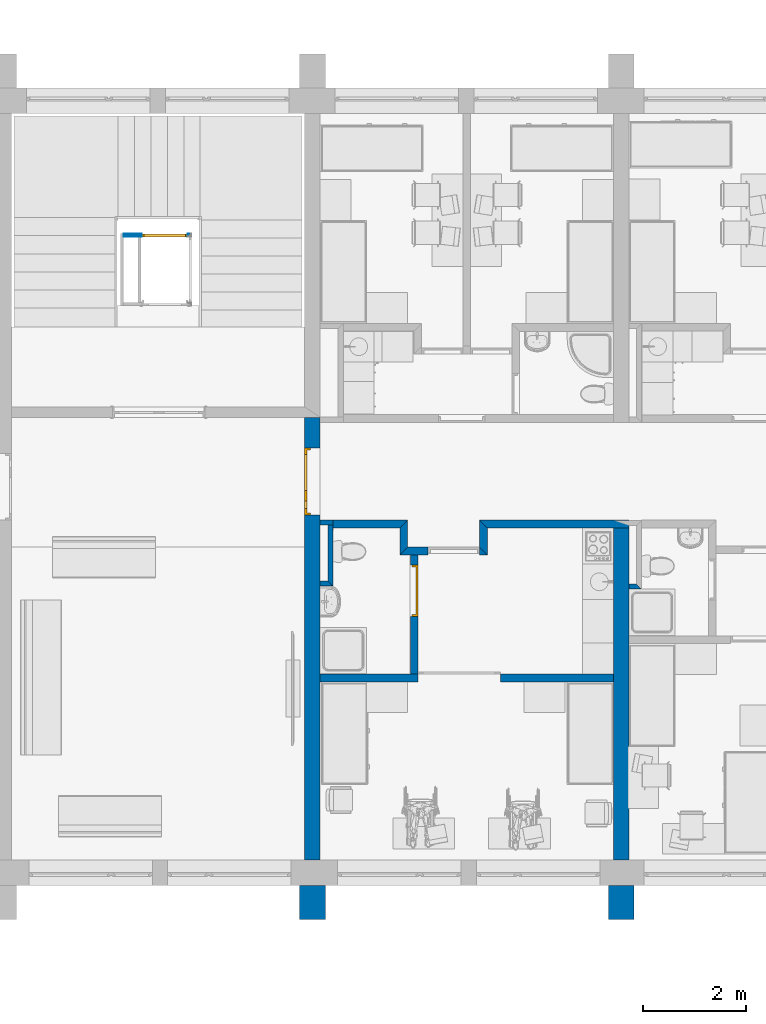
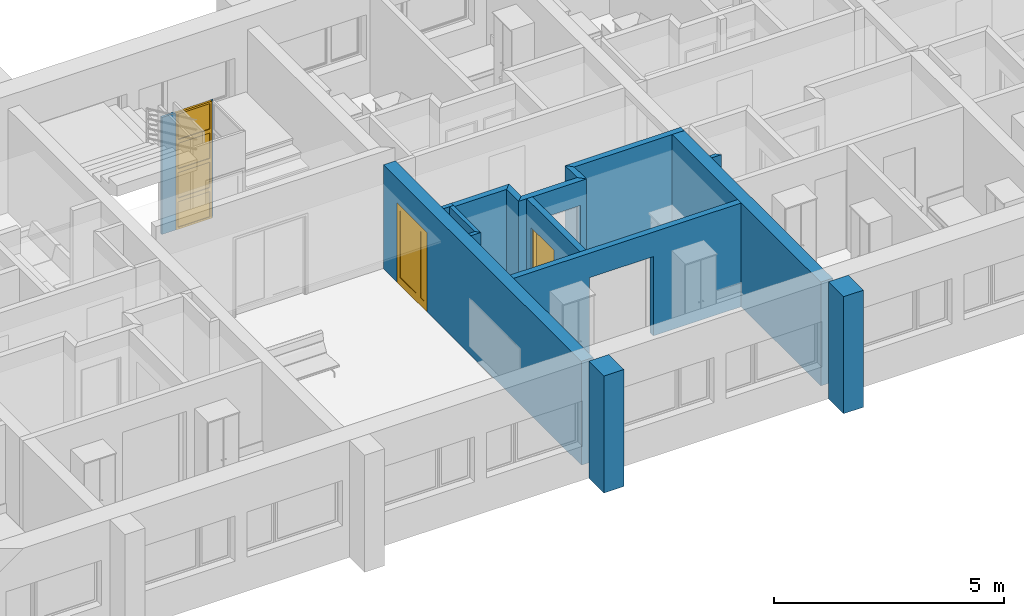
# One storey, part 14 of 172: 16 walls, 2 doors, 1 window, 5 openings.
"""IFC2X3 building model written with IfcOpenShell, lengths in millimetres."""

from ifc_helpers import new_model, entity, si_unit, converted_unit, money_unit, direction, frame, origin_with_axes, place, context, subcontext, project, spatial, polyline, outline, extrude, open_shell, faceted_brep, surface_model, source, transform, mapped, material, material_list, layer, layer_set, layer_usage, type_object, element, fill, save


model = new_model("IFC2X3")

# Units and contexts
model_context = context("Model", 3, precision=1e-05, world=origin_with_axes(), true_north=direction((0.0, 1.0)))
body_context = subcontext(model_context, "Body", "Model", "MODEL_VIEW")
ifc_project = project(units=[si_unit("LENGTHUNIT", "METRE", prefix="MILLI"), si_unit("AREAUNIT", "SQUARE_METRE"), si_unit("VOLUMEUNIT", "CUBIC_METRE"), converted_unit("PLANEANGLEUNIT", "DEGREE", entity("IfcPlaneAngleMeasure", 0.0174532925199), si_unit("PLANEANGLEUNIT", "RADIAN"), dimensions=[0, 0, 0, 0, 0, 0, 0]), si_unit("SOLIDANGLEUNIT", "STERADIAN"), money_unit("USD"), converted_unit("TIMEUNIT", "Year", entity("IfcTimeMeasure", 31556926.0), si_unit("TIMEUNIT", "SECOND"), dimensions=[0, 0, 0, 0, 0, 0, 0]), si_unit("MASSUNIT", "GRAM"), si_unit("THERMODYNAMICTEMPERATUREUNIT", "DEGREE_CELSIUS"), si_unit("LUMINOUSINTENSITYUNIT", "LUMEN")], contexts=[model_context])

# Site, building, storey
site_placement = place(None, origin_with_axes())
site = spatial("IfcSite", under=ifc_project, at=site_placement, Name="Site", CompositionType="ELEMENT")
building_placement = place(site_placement, origin_with_axes())
building = spatial("IfcBuilding", under=site, at=building_placement, Name="Building", CompositionType="ELEMENT")
storey_placement = place(building_placement, frame((0.0, 0.0, 3200.0), z_axis=(0.0, 0.0, 1.0), x_axis=(1.0, 0.0, 0.0)))
storey = spatial("IfcBuildingStorey", under=building, at=storey_placement, Name="3KORRUS", CompositionType="ELEMENT", Elevation=3200.0)

# Walls
ifc_material_1 = material(Name="Olemasolevad seinad tellis, uus viimistlus")
ifc_layer_1 = layer(ifc_material_1, 500.0, ventilated="UNKNOWN")
ifc_layer_set_1 = layer_set([ifc_layer_1], Name="Olemasolevad seinad tellis, uus viimistlus 500")
ifc_layer_usage_1 = layer_usage(ifc_layer_set_1, "AXIS2", "POSITIVE", -100.0)
wall_type_1 = type_object("IfcWallType", Name="Olemasolevad seinad tellis, uus viimistlus 500", PredefinedType="NOTDEFINED")
wall_1_placement = place(storey_placement, frame((9.70329668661, -20796.6419407, 0.0), z_axis=(0.0, 0.0, 1.0), x_axis=(0.0, 1.0, 0.0)))
element("IfcWallStandardCase", 1, at=wall_1_placement, inside=storey, type_object=wall_type_1, material=ifc_layer_usage_1, Name="VS1", ObjectType="VS1", context=body_context, shape_type="SweptSolid", body=[
    extrude(outline(polyline([(0.0, -100.0), (657.402041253, -100.0), (657.402041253, 400.0), (0.0, 400.0), (0.0, -100.0)])), origin_with_axes(), (0.0, 0.0, 1.0), 3100.0),
])
ifc_layer_usage_2 = layer_usage(ifc_layer_set_1, "AXIS2", "POSITIVE", -100.0)
wall_2_placement = place(storey_placement, frame((-5990.29670331, -20796.6419407, 0.0), z_axis=(0.0, 0.0, 1.0), x_axis=(0.0, 1.0, 0.0)))
element("IfcWallStandardCase", 2, at=wall_2_placement, inside=storey, type_object=wall_type_1, material=ifc_layer_usage_2, Name="VS1", ObjectType="VS1", context=body_context, shape_type="SweptSolid", body=[
    extrude(outline(polyline([(0.0, -100.0), (657.402041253, -100.0), (657.402041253, 400.0), (0.0, 400.0), (0.0, -100.0)])), origin_with_axes(), (0.0, 0.0, 1.0), 3100.0),
])

# Wall, opening
ifc_material_2 = material(Name="UmbKipsplaat")
ifc_layer_2 = layer(ifc_material_2, 13.0, ventilated="UNKNOWN")
ifc_layer_3 = layer(ifc_material_2, 13.0, ventilated="UNKNOWN")
ifc_material_3 = material(Name="SOOJUSTUS MINERAALVILL")
ifc_layer_4 = layer(ifc_material_3, 98.0, ventilated="UNKNOWN")
ifc_layer_5 = layer(ifc_material_2, 13.0, ventilated="UNKNOWN")
ifc_layer_6 = layer(ifc_material_2, 13.0, ventilated="UNKNOWN")
ifc_layer_set_2 = layer_set([ifc_layer_2, ifc_layer_3, ifc_layer_4, ifc_layer_5, ifc_layer_6], Name="kipssein150")
ifc_layer_usage_3 = layer_usage(ifc_layer_set_2, "AXIS2", "POSITIVE", 0.0)
wall_type_2 = type_object("IfcWallType", Name="kipssein150 150", PredefinedType="NOTDEFINED")
wall_3_placement = place(storey_placement, frame((9.70329668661, -16029.7357921, 0.0), z_axis=(0.0, 0.0, 1.0), x_axis=(-1.0, 0.0, 0.0)))
wall_3 = element("IfcWallStandardCase", 3, at=wall_3_placement, inside=storey, type_object=wall_type_2, material=ifc_layer_usage_3, Name="SS1", ObjectType="SS1", context=body_context, shape_type="SweptSolid", body=[
    extrude(outline(polyline([(300.0, 0.0), (6000.0, 0.0), (6000.0, 150.0), (300.0, 150.0), (300.0, 0.0)])), origin_with_axes(), (0.0, 0.0, 1.0), 2750.0),
])
opening_1_placement = place(wall_3_placement, frame((3298.49879352, 0.0, 0.0), z_axis=(0.0, 0.0, 1.0), x_axis=(1.0, 0.0, 0.0)))
element("IfcOpeningElement", 4, at=opening_1_placement, cuts=wall_3, Name="SU6-1", context=body_context, shape_type="SweptSolid", body=[
    extrude(outline(polyline([(-800.0, 0.0), (800.0, 0.0), (800.0, 2100.0), (-800.0, 2100.0), (-800.0, 0.0)])), frame((0.0, -150.0, 0.0), z_axis=(0.0, 1.0, 0.0), x_axis=(-1.0, 0.0, 0.0)), (0.0, 0.0, 1.0), 450.0),
])

ifc_layer_usage_4 = layer_usage(ifc_layer_set_2, "AXIS2", "POSITIVE", -150.0)
wall_4_placement = place(storey_placement, frame((-4290.10332226, -13563.4524083, 0.0), z_axis=(0.0, 0.0, 1.0), x_axis=(1.0, 0.0, 0.0)))
wall_4 = element("IfcWallStandardCase", 5, at=wall_4_placement, inside=storey, type_object=wall_type_2, material=ifc_layer_usage_4, Name="SS1", ObjectType="SS1", context=body_context, shape_type="SweptSolid", body=[
    extrude(outline(polyline([(-150.0, -150.0), (1549.66067938, -150.0), (1399.66067938, 0.0), (0.0, 0.0), (-150.0, -150.0)])), origin_with_axes(), (0.0, 0.0, 1.0), 2750.0),
])
opening_2_placement = place(wall_4_placement, frame((899.660679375, 0.0, 0.0), z_axis=(0.0, 0.0, 1.0), x_axis=(1.0, 0.0, 0.0)))
element("IfcOpeningElement", 6, at=opening_2_placement, cuts=wall_4, Name="SU1-1", context=body_context, shape_type="SweptSolid", body=[
    extrude(outline(polyline([(-500.0, -2100.0), (500.0, -2100.0), (500.0, 0.0), (-500.0, 0.0), (-500.0, -2100.0)])), frame((0.0, -150.0, 0.0), z_axis=(0.0, 1.0, 0.0), x_axis=(1.0, 0.0, 0.0)), (0.0, 0.0, 1.0), 450.0),
])

# Walls
ifc_layer_usage_5 = layer_usage(ifc_layer_set_2, "AXIS2", "POSITIVE", -150.0)
wall_5_placement = place(storey_placement, frame((-5740.29670331, -13036.631919, 0.0), z_axis=(0.0, 0.0, 1.0), x_axis=(1.0, 0.0, 0.0)))
element("IfcWallStandardCase", 7, at=wall_5_placement, inside=storey, type_object=wall_type_2, material=ifc_layer_usage_5, Name="SS1", ObjectType="SS1", context=body_context, shape_type="SweptSolid", body=[
    extrude(outline(polyline([(0.444701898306, -150.0), (1300.19338105, -150.0), (1450.19338105, 0.0), (0.000773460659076, 0.0), (0.444701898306, -150.0)])), origin_with_axes(), (0.0, 0.0, 1.0), 2750.0),
])
ifc_layer_usage_6 = layer_usage(ifc_layer_set_2, "AXIS2", "POSITIVE", -150.0)
wall_6_placement = place(storey_placement, frame((-2740.44264288, -13039.5012458, 0.0), z_axis=(0.0, 0.0, 1.0), x_axis=(0.0, -1.0, 0.0)))
element("IfcWallStandardCase", 8, at=wall_6_placement, inside=storey, type_object=wall_type_2, material=ifc_layer_usage_6, Name="SS1", ObjectType="SS1", context=body_context, shape_type="SweptSolid", body=[
    extrude(outline(polyline([(0.0, -150.0), (523.9511625, -150.0), (673.9511625, 0.0), (150.0, 0.0), (0.0, -150.0)])), origin_with_axes(), (0.0, 0.0, 1.0), 2750.0),
])

# Wall, opening, door
ifc_layer_usage_7 = layer_usage(ifc_layer_set_2, "AXIS2", "POSITIVE", 0.0)
wall_7_placement = place(storey_placement, frame((-4088.79549683, -16029.7357921, 0.0), z_axis=(0.0, 0.0, 1.0), x_axis=(0.0, 1.0, 0.0)))
wall_7 = element("IfcWallStandardCase", 9, at=wall_7_placement, inside=storey, type_object=wall_type_2, material=ifc_layer_usage_7, Name="SS1", ObjectType="SS1", context=body_context, shape_type="SweptSolid", body=[
    extrude(outline(polyline([(0.0, 0.0), (2316.2833838, 0.0), (2316.2833838, 150.0), (0.0, 150.0), (0.0, 0.0)])), origin_with_axes(), (0.0, 0.0, 1.0), 2750.0),
])
opening_3_placement = place(wall_7_placement, frame((1622.03161053, 0.0, 0.0), z_axis=(0.0, 0.0, 1.0), x_axis=(1.0, 0.0, 0.0)))
opening_3 = element("IfcOpeningElement", 10, at=opening_3_placement, cuts=wall_7, Name="SU1-4", context=body_context, shape_type="SweptSolid", body=[
    extrude(outline(polyline([(-500.0, -2100.0), (500.0, -2100.0), (500.0, 0.0), (-500.0, 0.0), (-500.0, -2100.0)])), frame((0.0, 150.0, 0.0), z_axis=(0.0, 1.0, 0.0), x_axis=(1.0, 0.0, 0.0)), (0.0, 0.0, -1.0), 450.0),
])
ifc_material_4 = material(Name="Background")
ifc_material_list = material_list([ifc_material_4])
door_style_1 = type_object("IfcDoorStyle", Name="Door 19", ConstructionType="NOTDEFINED", OperationType="SINGLE_SWING_LEFT", ParameterTakesPrecedence=False, Sizeable=False)
shared_shape_1 = source(origin_with_axes(), body_context, "Body", "Brep", [
    faceted_brep([(460.0, -40.0, 0.0), (460.0, -115.0, 0.0), (460.0, -115.0, 2060.0), (460.0, -40.0, 2060.0), (472.0, -40.0, 0.0), (472.0, 0.0, 0.0), (500.0, 0.0, 0.0), (500.0, -115.0, 0.0), (500.0, -115.0, 2060.0), (472.0, -40.0, 2060.0), (500.0, 0.0, 2060.0), (472.0, 0.0, 2060.0)], [[[0, 1, 2, 3]], [[4, 5, 6, 7, 1, 0]], [[2, 1, 7, 8]], [[9, 3, 2, 8, 10, 11]], [[9, 4, 0, 3]], [[11, 5, 4, 9]], [[11, 10, 6, 5]], [[7, 6, 10, 8]]]),
    faceted_brep([(-472.0, -40.0, 2060.0), (-472.0, 0.0, 2060.0), (-500.0, 0.0, 2060.0), (-500.0, -115.0, 2060.0), (-460.0, -115.0, 2060.0), (-460.0, -40.0, 2060.0), (-472.0, -40.0, 0.0), (-472.0, 0.0, 0.0), (-500.0, 0.0, 0.0), (-500.0, -115.0, 0.0), (-460.0, -115.0, 0.0), (-460.0, -40.0, 0.0)], [[[0, 1, 2, 3, 4, 5]], [[0, 6, 7, 1]], [[7, 8, 2, 1]], [[3, 2, 8, 9]], [[4, 3, 9, 10]], [[5, 4, 10, 11]], [[5, 11, 6, 0]], [[6, 11, 10, 9, 8, 7]]]),
    faceted_brep([(472.0, 0.0, 2072.0), (-472.0, 0.0, 2072.0), (-472.0, 0.0, 2060.0), (-500.0, 0.0, 2060.0), (-500.0, 0.0, 2100.0), (500.0, 0.0, 2100.0), (500.0, 0.0, 2060.0), (472.0, 0.0, 2060.0), (472.0, -40.0, 2072.0), (-472.0, -40.0, 2072.0), (-472.0, -40.0, 2060.0), (-460.0, -40.0, 2060.0), (-460.0, -115.0, 2060.0), (-500.0, -115.0, 2060.0), (-500.0, -115.0, 2100.0), (500.0, -115.0, 2100.0), (500.0, -115.0, 2060.0), (472.0, -40.0, 2060.0), (460.0, -115.0, 2060.0), (460.0, -40.0, 2060.0)], [[[0, 1, 2, 3, 4, 5, 6, 7]], [[0, 8, 9, 1]], [[1, 9, 10, 2]], [[10, 11, 12, 13, 3, 2]], [[14, 4, 3, 13]], [[15, 5, 4, 14]], [[16, 6, 5, 15]], [[17, 7, 6, 16, 18, 19]], [[7, 17, 8, 0]], [[10, 9, 8, 17, 19, 11]], [[19, 18, 12, 11]], [[13, 12, 18, 16, 15, 14]]]),
    faceted_brep([(-472.0, 0.0, 0.0), (472.0, 0.0, 0.0), (472.0, -40.0, 0.0), (-472.0, -40.0, 0.0), (-472.0, 0.0, 2072.0), (472.0, 0.0, 2072.0), (472.0, -40.0, 2072.0), (-472.0, -40.0, 2072.0)], [[[0, 1, 2, 3]], [[0, 4, 5, 1]], [[1, 5, 6, 2]], [[3, 2, 6, 7]], [[4, 0, 3, 7]], [[5, 4, 7, 6]]]),
])
door_1_placement = place(opening_3_placement, frame((500.0, 0.0, 0.0), z_axis=(0.0, 0.0, 1.0), x_axis=(-1.0, 0.0, 0.0)))
door_1 = element("IfcDoor", 11, at=door_1_placement, inside=storey, type_object=door_style_1, material=ifc_material_list, Name="SU1-4", ObjectType="WC-uks", OverallHeight=2100.0, OverallWidth=1000.0, context=body_context, shape_type="MappedRepresentation", body=[
    mapped(shared_shape_1, transform((500.0, 0.0, 0.0))),
])
fill(opening_3, door_1)

# Walls
ifc_layer_usage_8 = layer_usage(ifc_layer_set_2, "AXIS2", "POSITIVE", -150.0)
wall_8_placement = place(storey_placement, frame((-2740.44264288, -13039.5012458, 0.0), z_axis=(0.0, 0.0, 1.0), x_axis=(1.0, 0.0, 0.0)))
element("IfcWallStandardCase", 12, at=wall_8_placement, inside=storey, type_object=wall_type_2, material=ifc_layer_usage_8, Name="SS1", ObjectType="SS1", context=body_context, shape_type="SweptSolid", body=[
    extrude(outline(polyline([(0.0, -150.0), (2750.14593957, -150.0), (2750.14593957, 0.0), (-150.0, 0.0), (0.0, -150.0)])), origin_with_axes(), (0.0, 0.0, 1.0), 2750.0),
])
ifc_layer_usage_9 = layer_usage(ifc_layer_set_2, "AXIS2", "POSITIVE", -150.0)
wall_9_placement = place(storey_placement, frame((-4290.10332226, -13036.631919, 0.0), z_axis=(0.0, 0.0, 1.0), x_axis=(0.0, -1.0, 0.0)))
element("IfcWallStandardCase", 13, at=wall_9_placement, inside=storey, type_object=wall_type_2, material=ifc_layer_usage_9, Name="SS1", ObjectType="SS1", context=body_context, shape_type="SweptSolid", body=[
    extrude(outline(polyline([(150.0, -150.0), (676.8204893, -150.0), (526.8204893, 0.0), (0.0, 0.0), (150.0, -150.0)])), origin_with_axes(), (0.0, 0.0, 1.0), 2750.0),
])
ifc_material_5 = material(Name="Olemasolevad seinad tellis, uus viimistlus")
ifc_layer_7 = layer(ifc_material_5, 300.0, ventilated="UNKNOWN")
ifc_layer_set_3 = layer_set([ifc_layer_7], Name="Olemasolevad seinad tellis, uus viimistlus  300")
ifc_layer_usage_10 = layer_usage(ifc_layer_set_3, "AXIS2", "POSITIVE", 0.0)
wall_type_3 = type_object("IfcWallType", Name="Olemasolevad seinad tellis, uus viimistlus  300", PredefinedType="NOTDEFINED")
wall_10_placement = place(storey_placement, frame((9.70329668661, -19639.2398994, 0.0), z_axis=(0.0, 0.0, 1.0), x_axis=(0.0, 1.0, 0.0)))
element("IfcWallStandardCase", 14, at=wall_10_placement, inside=storey, type_object=wall_type_3, material=ifc_layer_usage_10, Name="KS1", ObjectType="KS1", context=body_context, shape_type="SweptSolid", body=[
    extrude(outline(polyline([(0.0, 0.0), (6497.7869877, 0.0), (6597.7869877, 300.0), (0.0, 300.0), (0.0, 0.0)])), origin_with_axes(), (0.0, 0.0, 1.0), 2750.0),
])

# Wall, opening, door
ifc_layer_usage_11 = layer_usage(ifc_layer_set_3, "AXIS2", "POSITIVE", 0.0)
wall_11_placement = place(storey_placement, frame((-5990.29670331, -19639.2398994, 0.0), z_axis=(0.0, 0.0, 1.0), x_axis=(0.0, 1.0, 0.0)))
wall_11 = element("IfcWallStandardCase", 15, at=wall_11_placement, inside=storey, type_object=wall_type_3, material=ifc_layer_usage_11, Name="KS1", ObjectType="KS1", context=body_context, shape_type="SweptSolid", body=[
    extrude(outline(polyline([(0.0, 0.0), (8595.09891722, 0.0), (8595.09891722, 300.0), (0.0, 300.0), (0.0, 0.0)])), origin_with_axes(), (0.0, 0.0, 1.0), 2750.0),
])
opening_4_placement = place(wall_11_placement, frame((7352.86932682, 0.0, 0.0), z_axis=(0.0, 0.0, 1.0), x_axis=(1.0, 0.0, 0.0)))
opening_4 = element("IfcOpeningElement", 16, at=opening_4_placement, cuts=wall_11, Name="SU4-22", context=body_context, shape_type="SweptSolid", body=[
    extrude(outline(polyline([(-650.0, -2100.0), (650.0, -2100.0), (650.0, 0.0), (-650.0, 0.0), (-650.0, -2100.0)])), frame((0.0, -300.0, 0.0), z_axis=(0.0, 1.0, 0.0), x_axis=(1.0, 0.0, 0.0)), (0.0, 0.0, 1.0), 900.0),
])
door_style_2 = type_object("IfcDoorStyle", Name="Double Door Asymmetric 19", ConstructionType="NOTDEFINED", OperationType="DOUBLE_DOOR_SINGLE_SWING", ParameterTakesPrecedence=False, Sizeable=False)
shared_shape_2 = source(origin_with_axes(), body_context, "Body", "SurfaceModel", [
    faceted_brep([(-610.0, -40.0, 0.0), (-610.0, -40.0, 2060.0), (-610.0, -115.0, 2060.0), (-610.0, -115.0, 0.0), (-622.0, -40.0, 2060.0), (-622.0, -40.0, 0.0), (-622.0, 0.0, 2060.0), (-650.0, 0.0, 2060.0), (-650.0, -115.0, 2060.0), (-650.0, -115.0, 0.0), (-650.0, 0.0, 0.0), (-622.0, 0.0, 0.0)], [[[0, 1, 2, 3]], [[4, 1, 0, 5]], [[4, 6, 7, 8, 2, 1]], [[2, 8, 9, 3]], [[5, 0, 3, 9, 10, 11]], [[6, 4, 5, 11]], [[6, 11, 10, 7]], [[9, 8, 7, 10]]]),
    faceted_brep([(622.0, -40.0, 2060.0), (610.0, -40.0, 2060.0), (610.0, -115.0, 2060.0), (650.0, -115.0, 2060.0), (650.0, 0.0, 2060.0), (622.0, 0.0, 2060.0), (622.0, -40.0, 0.0), (610.0, -40.0, 0.0), (610.0, -115.0, 0.0), (650.0, -115.0, 0.0), (650.0, 0.0, 0.0), (622.0, 0.0, 0.0)], [[[0, 1, 2, 3, 4, 5]], [[1, 0, 6, 7]], [[1, 7, 8, 2]], [[2, 8, 9, 3]], [[3, 9, 10, 4]], [[11, 5, 4, 10]], [[0, 5, 11, 6]], [[6, 11, 10, 9, 8, 7]]]),
    faceted_brep([(-622.0, 0.0, 2072.0), (-622.0, 0.0, 2060.0), (-650.0, 0.0, 2060.0), (-650.0, 0.0, 2100.0), (650.0, 0.0, 2100.0), (650.0, 0.0, 2060.0), (622.0, 0.0, 2060.0), (622.0, 0.0, 2072.0), (-622.0, -40.0, 2072.0), (-622.0, -40.0, 2060.0), (-610.0, -40.0, 2060.0), (-610.0, -115.0, 2060.0), (-650.0, -115.0, 2060.0), (-650.0, -115.0, 2100.0), (650.0, -115.0, 2100.0), (650.0, -115.0, 2060.0), (622.0, -40.0, 2060.0), (610.0, -115.0, 2060.0), (610.0, -40.0, 2060.0), (622.0, -40.0, 2072.0)], [[[0, 1, 2, 3, 4, 5, 6, 7]], [[1, 0, 8, 9]], [[9, 10, 11, 12, 2, 1]], [[12, 13, 3, 2]], [[13, 14, 4, 3]], [[14, 15, 5, 4]], [[16, 6, 5, 15, 17, 18]], [[7, 6, 16, 19]], [[0, 7, 19, 8]], [[16, 18, 10, 9, 8, 19]], [[10, 18, 17, 11]], [[15, 14, 13, 12, 11, 17]]]),
    faceted_brep([(622.0, 0.0, 200.0), (622.0, -40.0, 200.0), (522.0, -40.0, 200.0), (522.0, 0.0, 200.0), (622.0, 0.0, 1972.0), (622.0, -40.0, 1972.0), (522.0, -40.0, 1972.0), (522.0, 0.0, 1972.0)], [[[0, 1, 2, 3]], [[4, 5, 1, 0]], [[1, 5, 6, 2]], [[3, 2, 6, 7]], [[0, 3, 7, 4]], [[7, 6, 5, 4]]]),
    faceted_brep([(-278.0, 0.0, 200.0), (-278.0, -40.0, 200.0), (-278.0, -40.0, 1972.0), (-278.0, 0.0, 1972.0), (-178.0, 0.0, 200.0), (-178.0, -40.0, 200.0), (-178.0, -40.0, 1972.0), (-178.0, 0.0, 1972.0)], [[[0, 1, 2, 3]], [[4, 5, 1, 0]], [[1, 5, 6, 2]], [[3, 2, 6, 7]], [[0, 3, 7, 4]], [[7, 6, 5, 4]]]),
    faceted_brep([(622.0, 0.0, 0.0), (622.0, -40.0, 0.0), (-278.0, -40.0, 0.0), (-278.0, 0.0, 0.0), (622.0, 0.0, 200.0), (622.0, -40.0, 200.0), (522.0, -40.0, 200.0), (-178.0, -40.0, 200.0), (-278.0, -40.0, 200.0), (-278.0, 0.0, 200.0), (-178.0, 0.0, 200.0), (522.0, 0.0, 200.0)], [[[0, 1, 2, 3]], [[4, 5, 1, 0]], [[1, 5, 6, 7, 8, 2]], [[3, 2, 8, 9]], [[0, 3, 9, 10, 11, 4]], [[11, 6, 5, 4]], [[10, 7, 6, 11]], [[9, 8, 7, 10]]]),
    faceted_brep([(622.0, 0.0, 2072.0), (622.0, -40.0, 2072.0), (622.0, -40.0, 1972.0), (622.0, 0.0, 1972.0), (-278.0, 0.0, 2072.0), (-278.0, -40.0, 2072.0), (-278.0, -40.0, 1972.0), (-178.0, -40.0, 1972.0), (522.0, -40.0, 1972.0), (522.0, 0.0, 1972.0), (-178.0, 0.0, 1972.0), (-278.0, 0.0, 1972.0)], [[[0, 1, 2, 3]], [[4, 5, 1, 0]], [[1, 5, 6, 7, 8, 2]], [[3, 2, 8, 9]], [[0, 3, 9, 10, 11, 4]], [[11, 6, 5, 4]], [[10, 7, 6, 11]], [[9, 8, 7, 10]]]),
    surface_model("IfcShellBasedSurfaceModel", [(522.0, -14.0, 200.0), (-178.0, -14.0, 200.0), (-178.0, -14.0, 1972.0), (522.0, -14.0, 1972.0)], [open_shell([[[0, 1, 2, 3]]])]),
    surface_model("IfcShellBasedSurfaceModel", [(522.0, -26.0, 200.0), (522.0, -26.0, 1972.0), (-178.0, -26.0, 1972.0), (-178.0, -26.0, 200.0)], [open_shell([[[0, 1, 2, 3]]])]),
    faceted_brep([(-622.0, 0.0, 200.0), (-522.0, 0.0, 200.0), (-522.0, -40.0, 200.0), (-622.0, -40.0, 200.0), (-622.0, 0.0, 1972.0), (-522.0, 0.0, 1972.0), (-522.0, -40.0, 1972.0), (-622.0, -40.0, 1972.0)], [[[0, 1, 2, 3]], [[0, 4, 5, 1]], [[1, 5, 6, 2]], [[3, 2, 6, 7]], [[4, 0, 3, 7]], [[5, 4, 7, 6]]]),
    faceted_brep([(-278.0, 0.0, 200.0), (-278.0, 0.0, 1972.0), (-278.0, -40.0, 1972.0), (-278.0, -40.0, 200.0), (-378.0, 0.0, 200.0), (-378.0, 0.0, 1972.0), (-378.0, -40.0, 1972.0), (-378.0, -40.0, 200.0)], [[[0, 1, 2, 3]], [[0, 4, 5, 1]], [[1, 5, 6, 2]], [[3, 2, 6, 7]], [[4, 0, 3, 7]], [[5, 4, 7, 6]]]),
    faceted_brep([(-622.0, 0.0, 0.0), (-278.0, 0.0, 0.0), (-278.0, -40.0, 0.0), (-622.0, -40.0, 0.0), (-622.0, 0.0, 200.0), (-522.0, 0.0, 200.0), (-378.0, 0.0, 200.0), (-278.0, 0.0, 200.0), (-278.0, -40.0, 200.0), (-378.0, -40.0, 200.0), (-522.0, -40.0, 200.0), (-622.0, -40.0, 200.0)], [[[0, 1, 2, 3]], [[0, 4, 5, 6, 7, 1]], [[1, 7, 8, 2]], [[3, 2, 8, 9, 10, 11]], [[4, 0, 3, 11]], [[5, 4, 11, 10]], [[6, 5, 10, 9]], [[7, 6, 9, 8]]]),
    faceted_brep([(-622.0, 0.0, 2072.0), (-622.0, 0.0, 1972.0), (-622.0, -40.0, 1972.0), (-622.0, -40.0, 2072.0), (-278.0, 0.0, 2072.0), (-278.0, 0.0, 1972.0), (-378.0, 0.0, 1972.0), (-522.0, 0.0, 1972.0), (-522.0, -40.0, 1972.0), (-378.0, -40.0, 1972.0), (-278.0, -40.0, 1972.0), (-278.0, -40.0, 2072.0)], [[[0, 1, 2, 3]], [[0, 4, 5, 6, 7, 1]], [[1, 7, 8, 2]], [[3, 2, 8, 9, 10, 11]], [[4, 0, 3, 11]], [[5, 4, 11, 10]], [[6, 5, 10, 9]], [[7, 6, 9, 8]]]),
    surface_model("IfcShellBasedSurfaceModel", [(-522.0, -14.0, 200.0), (-522.0, -14.0, 1972.0), (-378.0, -14.0, 1972.0), (-378.0, -14.0, 200.0)], [open_shell([[[0, 1, 2, 3]]])]),
    surface_model("IfcShellBasedSurfaceModel", [(-522.0, -26.0, 200.0), (-378.0, -26.0, 200.0), (-378.0, -26.0, 1972.0), (-522.0, -26.0, 1972.0)], [open_shell([[[0, 1, 2, 3]]])]),
])
door_2_placement = place(opening_4_placement, frame((-650.0, 0.0, 0.0), z_axis=(0.0, 0.0, 1.0), x_axis=(1.0, 0.0, 0.0)))
door_2 = element("IfcDoor", 17, at=door_2_placement, inside=storey, type_object=door_style_2, material=ifc_material_list, Name="SU4-22", ObjectType="Trepkoja uks", OverallHeight=2100.0, OverallWidth=1300.0, context=body_context, shape_type="MappedRepresentation", body=[
    mapped(shared_shape_2, transform((650.0, 300.0, 0.0))),
])
fill(opening_4, door_2)

# Walls
ifc_material_6 = material(Name="krohv")
ifc_layer_8 = layer(ifc_material_6, 2.0, ventilated="UNKNOWN")
ifc_layer_9 = layer(ifc_material_6, 10.0, ventilated="UNKNOWN")
ifc_material_7 = material(Name="Kergplokk")
ifc_layer_10 = layer(ifc_material_7, 76.0, ventilated="UNKNOWN")
ifc_layer_11 = layer(ifc_material_6, 10.0, ventilated="UNKNOWN")
ifc_layer_12 = layer(ifc_material_6, 2.0, ventilated="UNKNOWN")
ifc_layer_set_4 = layer_set([ifc_layer_8, ifc_layer_9, ifc_layer_10, ifc_layer_11, ifc_layer_12], Name="Kergplokk Bauroc 100")
ifc_layer_usage_12 = layer_usage(ifc_layer_set_4, "AXIS2", "POSITIVE", 0.0)
wall_type_4 = type_object("IfcWallType", Name="Kergplokk Bauroc 100 100", PredefinedType="NOTDEFINED")
wall_12_placement = place(storey_placement, frame((-5990.29670331, -13136.631919, 0.0), z_axis=(0.0, 0.0, 1.0), x_axis=(1.0, 0.0, 0.0)))
element("IfcWallStandardCase", 18, at=wall_12_placement, inside=storey, type_object=wall_type_4, material=ifc_layer_usage_12, Name="SS2", ObjectType="SS2", context=body_context, shape_type="SweptSolid", body=[
    extrude(outline(polyline([(0.0, 0.0), (250.0, 0.0), (250.0, 100.0), (0.0, 100.0), (0.0, 0.0)])), origin_with_axes(), (0.0, 0.0, 1.0), 2750.0),
])
ifc_layer_usage_13 = layer_usage(ifc_layer_set_4, "AXIS2", "POSITIVE", 0.0)
wall_13_placement = place(storey_placement, frame((-5990.29670331, -14321.4093992, 0.0), z_axis=(0.0, 0.0, 1.0), x_axis=(1.0, 0.0, 0.0)))
element("IfcWallStandardCase", 19, at=wall_13_placement, inside=storey, type_object=wall_type_4, material=ifc_layer_usage_13, Name="SS2", ObjectType="SS2", context=body_context, shape_type="SweptSolid", body=[
    extrude(outline(polyline([(0.0, 0.0), (253.803101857, 0.0), (153.506711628, 100.0), (0.0, 100.0), (0.0, 0.0)])), origin_with_axes(), (0.0, 0.0, 1.0), 2750.0),
])
ifc_layer_usage_14 = layer_usage(ifc_layer_set_4, "AXIS2", "POSITIVE", 0.0)
wall_14_placement = place(storey_placement, frame((9.34823318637, -14380.4716262, 0.0), z_axis=(0.0, 0.0, 1.0), x_axis=(1.0, 0.0, 0.0)))
element("IfcWallStandardCase", 20, at=wall_14_placement, inside=storey, type_object=wall_type_4, material=ifc_layer_usage_14, Name="SS2", ObjectType="SAHTISEIN", context=body_context, shape_type="SweptSolid", body=[
    extrude(outline(polyline([(0.0, 0.0), (250.066668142, 0.0), (150.066668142, 100.0), (0.0, 100.0), (0.0, 0.0)])), origin_with_axes(), (0.0, 0.0, 1.0), 2750.0),
])
ifc_layer_usage_15 = layer_usage(ifc_layer_set_4, "AXIS2", "POSITIVE", -100.0)
wall_15_placement = place(storey_placement, frame((-5740.29670331, -13036.3705726, 0.0), z_axis=(0.0, 0.0, 1.0), x_axis=(0.00295950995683, -0.999995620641, 0.0)))
element("IfcWallStandardCase", 21, at=wall_15_placement, inside=storey, type_object=wall_type_4, material=ifc_layer_usage_15, Name="SS2", ObjectType="SS2", context=body_context, shape_type="SweptSolid", body=[
    extrude(outline(polyline([(0.0, -100.0), (1184.74806404, -100.0), (1285.04445427, 0.0), (0.0, 0.0), (0.0, -100.0)])), origin_with_axes(), (0.0, 0.0, 1.0), 2750.0),
])

# Wall, opening, window
ifc_material_8 = material(Name="Terasprofiil")
ifc_layer_13 = layer(ifc_material_8, 60.0, ventilated="UNKNOWN")
ifc_layer_set_5 = layer_set([ifc_layer_13], Name="Terasprofiil 60")
ifc_layer_usage_16 = layer_usage(ifc_layer_set_5, "AXIS2", "POSITIVE", 0.0)
wall_type_5 = type_object("IfcWallType", Name="Terasprofiil 60", PredefinedType="NOTDEFINED")
wall_16_placement = place(storey_placement, frame((-8491.93119318, -7470.64352695, 0.0), z_axis=(0.0, 0.0, 1.0), x_axis=(-1.0, 0.0, 0.0)))
wall_16 = element("IfcWallStandardCase", 22, at=wall_16_placement, inside=storey, type_object=wall_type_5, material=ifc_layer_usage_16, Name="LS1", ObjectType="LIFTISAHTI SEIN", context=body_context, shape_type="SweptSolid", body=[
    extrude(outline(polyline([(0.0, 0.0), (1317.47535316, 0.0), (1317.47535316, 60.0), (60.0, 60.0), (0.0, 0.0)])), origin_with_axes(), (0.0, 0.0, 1.0), 3100.0),
])
opening_5_placement = place(wall_16_placement, frame((518.737676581, 0.0, 0.0), z_axis=(0.0, 0.0, 1.0), x_axis=(1.0, 0.0, 0.0)))
opening_5 = element("IfcOpeningElement", 23, at=opening_5_placement, cuts=wall_16, Name="Lifti klaassein", context=body_context, shape_type="SweptSolid", body=[
    extrude(outline(polyline([(-450.0, 0.0), (450.0, 0.0), (450.0, 3100.0), (-450.0, 3100.0), (-450.0, 0.0)])), frame((0.0, -60.0, 0.0), z_axis=(0.0, 1.0, 0.0), x_axis=(-1.0, 0.0, 0.0)), (0.0, 0.0, 1.0), 180.0),
])
window_style = type_object("IfcWindowStyle", Name="Vertical Multi-Sash Window 19", ConstructionType="NOTDEFINED", OperationType="USERDEFINED", ParameterTakesPrecedence=False, Sizeable=False)
shared_shape_3 = source(origin_with_axes(), body_context, "Body", "SurfaceModel", [
    faceted_brep([(-400.0, -60.0, 3050.0), (-400.0, -10.0, 3050.0), (-450.0, -10.0, 3050.0), (-450.0, -60.0, 3050.0), (-400.0, -60.0, 2375.0), (-400.0, -10.0, 2375.0), (-400.0, -10.0, 2275.0), (-400.0, -10.0, 1600.0), (-400.0, -10.0, 1500.0), (-400.0, -10.0, 825.0), (-400.0, -10.0, 725.0), (-400.0, -10.0, 50.0), (-450.0, -10.0, 50.0), (-450.0, -60.0, 50.0), (-400.0, -60.0, 50.0), (-400.0, -60.0, 725.0), (-400.0, -60.0, 825.0), (-400.0, -60.0, 1500.0), (-400.0, -60.0, 1600.0), (-400.0, -60.0, 2275.0)], [[[0, 1, 2, 3]], [[4, 5, 1, 0]], [[1, 5, 6, 7, 8, 9, 10, 11, 12, 2]], [[3, 2, 12, 13]], [[0, 3, 13, 14, 15, 16, 17, 18, 19, 4]], [[19, 6, 5, 4]], [[18, 7, 6, 19]], [[17, 8, 7, 18]], [[16, 9, 8, 17]], [[15, 10, 9, 16]], [[14, 11, 10, 15]], [[13, 12, 11, 14]]]),
    faceted_brep([(400.0, -60.0, 2375.0), (400.0, -10.0, 2375.0), (400.0, -10.0, 2275.0), (400.0, -60.0, 2275.0), (400.0, -60.0, 3050.0), (400.0, -10.0, 3050.0), (450.0, -10.0, 3050.0), (450.0, -10.0, 50.0), (400.0, -10.0, 50.0), (400.0, -10.0, 725.0), (400.0, -10.0, 825.0), (400.0, -10.0, 1500.0), (400.0, -10.0, 1600.0), (400.0, -60.0, 1600.0), (400.0, -60.0, 1500.0), (400.0, -60.0, 825.0), (400.0, -60.0, 725.0), (400.0, -60.0, 50.0), (450.0, -60.0, 50.0), (450.0, -60.0, 3050.0)], [[[0, 1, 2, 3]], [[4, 5, 1, 0]], [[1, 5, 6, 7, 8, 9, 10, 11, 12, 2]], [[3, 2, 12, 13]], [[0, 3, 13, 14, 15, 16, 17, 18, 19, 4]], [[19, 6, 5, 4]], [[18, 7, 6, 19]], [[17, 8, 7, 18]], [[16, 9, 8, 17]], [[15, 10, 9, 16]], [[14, 11, 10, 15]], [[13, 12, 11, 14]]]),
    faceted_brep([(400.0, -60.0, 3050.0), (400.0, -10.0, 3050.0), (450.0, -10.0, 3050.0), (450.0, -60.0, 3050.0), (-400.0, -60.0, 3050.0), (-400.0, -10.0, 3050.0), (-450.0, -10.0, 3050.0), (-450.0, -10.0, 3100.0), (450.0, -10.0, 3100.0), (450.0, -60.0, 3100.0), (-450.0, -60.0, 3100.0), (-450.0, -60.0, 3050.0)], [[[0, 1, 2, 3]], [[4, 5, 1, 0]], [[1, 5, 6, 7, 8, 2]], [[3, 2, 8, 9]], [[0, 3, 9, 10, 11, 4]], [[11, 6, 5, 4]], [[10, 7, 6, 11]], [[9, 8, 7, 10]]]),
    faceted_brep([(-400.0, -60.0, 50.0), (-400.0, -10.0, 50.0), (-450.0, -10.0, 50.0), (-450.0, -60.0, 50.0), (400.0, -60.0, 50.0), (400.0, -10.0, 50.0), (450.0, -10.0, 50.0), (450.0, -10.0, 0.0), (-450.0, -10.0, 0.0), (-450.0, -60.0, 0.0), (450.0, -60.0, 0.0), (450.0, -60.0, 50.0)], [[[0, 1, 2, 3]], [[4, 5, 1, 0]], [[1, 5, 6, 7, 8, 2]], [[3, 2, 8, 9]], [[0, 3, 9, 10, 11, 4]], [[11, 6, 5, 4]], [[10, 7, 6, 11]], [[9, 8, 7, 10]]]),
    faceted_brep([(400.0, -60.0, 825.0), (400.0, -10.0, 825.0), (-400.0, -10.0, 825.0), (-400.0, -60.0, 825.0), (400.0, -60.0, 725.0), (400.0, -10.0, 725.0), (-400.0, -10.0, 725.0), (-400.0, -60.0, 725.0)], [[[0, 1, 2, 3]], [[4, 5, 1, 0]], [[1, 5, 6, 2]], [[3, 2, 6, 7]], [[0, 3, 7, 4]], [[7, 6, 5, 4]]]),
    faceted_brep([(400.0, -60.0, 1600.0), (400.0, -10.0, 1600.0), (-400.0, -10.0, 1600.0), (-400.0, -60.0, 1600.0), (400.0, -60.0, 1500.0), (400.0, -10.0, 1500.0), (-400.0, -10.0, 1500.0), (-400.0, -60.0, 1500.0)], [[[0, 1, 2, 3]], [[4, 5, 1, 0]], [[1, 5, 6, 2]], [[3, 2, 6, 7]], [[0, 3, 7, 4]], [[7, 6, 5, 4]]]),
    faceted_brep([(400.0, -60.0, 2375.0), (400.0, -10.0, 2375.0), (-400.0, -10.0, 2375.0), (-400.0, -60.0, 2375.0), (400.0, -60.0, 2275.0), (400.0, -10.0, 2275.0), (-400.0, -10.0, 2275.0), (-400.0, -60.0, 2275.0)], [[[0, 1, 2, 3]], [[4, 5, 1, 0]], [[1, 5, 6, 2]], [[3, 2, 6, 7]], [[0, 3, 7, 4]], [[7, 6, 5, 4]]]),
    surface_model("IfcShellBasedSurfaceModel", [(-400.0, -45.0, 50.0), (400.0, -45.0, 50.0), (400.0, -45.0, 725.0), (-400.0, -45.0, 725.0)], [open_shell([[[0, 1, 2, 3]]])]),
    surface_model("IfcShellBasedSurfaceModel", [(-400.0, -25.0, 50.0), (-400.0, -25.0, 725.0), (400.0, -25.0, 725.0), (400.0, -25.0, 50.0)], [open_shell([[[0, 1, 2, 3]]])]),
    surface_model("IfcShellBasedSurfaceModel", [(-400.0, -45.0, 825.0), (400.0, -45.0, 825.0), (400.0, -45.0, 1500.0), (-400.0, -45.0, 1500.0)], [open_shell([[[0, 1, 2, 3]]])]),
    surface_model("IfcShellBasedSurfaceModel", [(-400.0, -25.0, 825.0), (-400.0, -25.0, 1500.0), (400.0, -25.0, 1500.0), (400.0, -25.0, 825.0)], [open_shell([[[0, 1, 2, 3]]])]),
    surface_model("IfcShellBasedSurfaceModel", [(-400.0, -45.0, 1600.0), (400.0, -45.0, 1600.0), (400.0, -45.0, 2275.0), (-400.0, -45.0, 2275.0)], [open_shell([[[0, 1, 2, 3]]])]),
    surface_model("IfcShellBasedSurfaceModel", [(-400.0, -25.0, 1600.0), (-400.0, -25.0, 2275.0), (400.0, -25.0, 2275.0), (400.0, -25.0, 1600.0)], [open_shell([[[0, 1, 2, 3]]])]),
    surface_model("IfcShellBasedSurfaceModel", [(-400.0, -45.0, 2375.0), (400.0, -45.0, 2375.0), (400.0, -45.0, 3050.0), (-400.0, -45.0, 3050.0)], [open_shell([[[0, 1, 2, 3]]])]),
    surface_model("IfcShellBasedSurfaceModel", [(-400.0, -25.0, 2375.0), (-400.0, -25.0, 3050.0), (400.0, -25.0, 3050.0), (400.0, -25.0, 2375.0)], [open_shell([[[0, 1, 2, 3]]])]),
])
window_placement = place(opening_5_placement, frame((450.0, 0.0, 0.0), z_axis=(0.0, 0.0, 1.0), x_axis=(-1.0, 0.0, 0.0)))
window = element("IfcWindow", 24, at=window_placement, inside=storey, type_object=window_style, material=ifc_material_list, Name="Lifti klaassein", ObjectType="WINDOW", OverallHeight=3100.0, OverallWidth=900.0, context=body_context, shape_type="MappedRepresentation", body=[
    mapped(shared_shape_3, transform((450.0, 0.0, 0.0))),
])
fill(opening_5, window)

save(model, "model.ifc")
